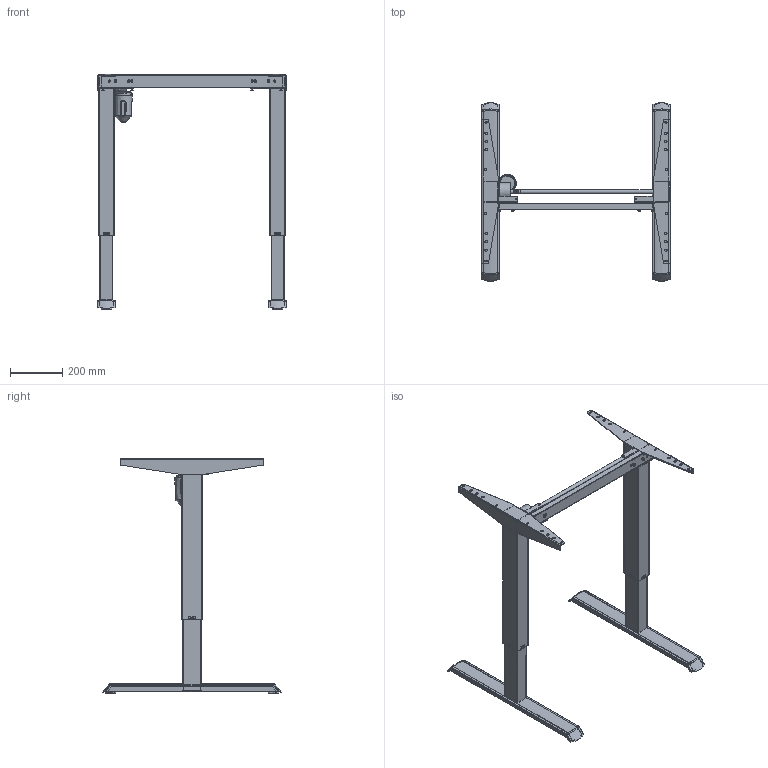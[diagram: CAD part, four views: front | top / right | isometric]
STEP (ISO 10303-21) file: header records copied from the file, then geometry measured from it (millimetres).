
FILE_DESCRIPTION (( 'STEP AP203' ), '1' );
FILE_NAME ('Tech-draw_501-33_XX072.STEP', '2019-09-25T10:13:21', ( '' ), ( '' ), 'SwSTEP 2.0', 'SolidWorks 2018', '' );
FILE_SCHEMA (( 'CONFIG_CONTROL_DESIGN' ));
Length unit declared in the file: millimetre
Products named in the file (27): 351320; 340540_shell view; 324520_silver; 344430_silver; 341800_silver; 344820_shell view; 345600; 345610_shell view; 332570; 340560; 149070_501-33 XS072; 140950_silver1; 140920_silver; 347910_72; 140930_silver; 341220; 140850_silver1; Tech-draw_501-33_XX072; 347920_72; 345620_shell view; 144260_72; 345630_shell view; 140910_silver; 340760; 352600; 348720_shell view; 140860_silver1
Assembly tree (44 placements, depth 6):
  Tech-draw_501-33_XX072
    149070_501-33 XS072
      347910_72
      144260_72
        347920_72
        340560
        341220
      140920_silver
        140860_silver1
          345610_shell view
          344820_shell view
          348720_shell view
        140930_silver
          140950_silver1
            345620_shell view
            345630_shell view
            351320
        324520_silver  x2
        341800_silver  x4
        344430_silver
        352600
      140910_silver
        140850_silver1
          345600
          344820_shell view
          340540_shell view
        140930_silver
          140950_silver1
            345620_shell view
            345630_shell view
            351320
        324520_silver  x2
        341800_silver  x4
      340760  x4
      332570  x4
Bounding box: 726 x 683.9 x 898.46 mm (x, y, z)
Volume: 2212760.8 mm3; surface area: 2344925.9 mm2
Topology: 38 solids, 38 shells, 2758 faces, 7051 edges, 4399 vertices
Faces by surface type: plane 1435, cylinder 935, bspline 256, cone 69, torus 63
Full cylindrical faces by diameter (mm): 2.8 x4, 3 x2, 4.6 x4, 5 x4, 6 x10, 7 x8, 7.4 x4, 7.6 x4, 8 x12, 10 x8, 11.9 x2, 12 x1, 13 x2, 15 x4, 16 x2, 18 x1, 20 x2, 24 x1, 37.6 x8, 60 x1
Entity records: 72523 total; most frequent: CARTESIAN_POINT 31924, ORIENTED_EDGE 8058, DIRECTION 7389, EDGE_CURVE 4029, AXIS2_PLACEMENT_3D 2717, VERTEX_POINT 2607, LINE 1955, VECTOR 1955
